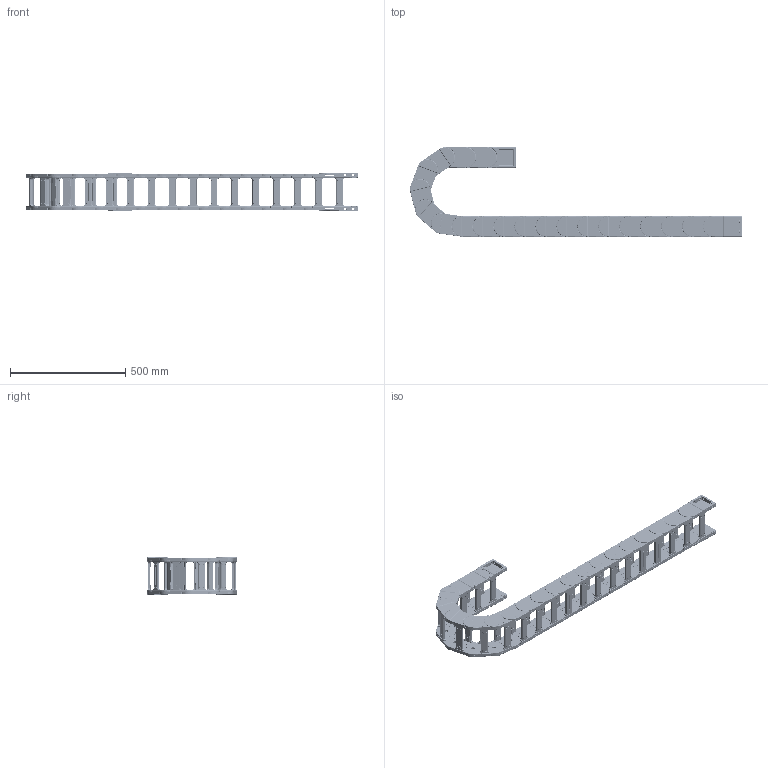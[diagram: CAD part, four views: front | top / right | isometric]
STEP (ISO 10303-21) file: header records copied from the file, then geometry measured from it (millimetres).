
FILE_DESCRIPTION (( 'STEP AP214' ), '1' );
FILE_NAME ('J60Q.1.125S-3D賦凳芞.STEP', '2019-01-10T01:09:02', ( 'Sky123.Org' ), ( 'Sky123.Org' ), 'SwSTEP 2.0', 'SolidWorks 2017', '' );
FILE_SCHEMA (( 'AUTOMOTIVE_DESIGN' ));
Length unit declared in the file: millimetre
Products named in the file (10): J60Q.1-源諉芛-W; J60Q.1.100S-桥式-内接头; 臏簽12X9; J60Q.1-源諉芛-N; J60Q.1.100S-桥式-单节主体; J60-H80-100結え; J60Q.1-翋极-R-2018.3.30; J60Q.1-翋极-L-2018.3.30; J60Q.1.125S-3D賦凳芞; J60Q.1.100S-桥式-外接头
Assembly tree (57 placements, depth 3):
  J60Q.1.125S-3D賦凳芞
    J60Q.1.100S-桥式-单节主体  x19
      J60Q.1-翋极-L-2018.3.30
      J60Q.1-翋极-R-2018.3.30
      J60-H80-100結え
    J60Q.1.100S-桥式-内接头
      J60Q.1-源諉芛-N  x2
      J60-H80-100結え  x2
      臏簽12X9  x12
    J60Q.1.100S-桥式-外接头
      J60Q.1-源諉芛-W  x2
      J60-H80-100結え  x2
      臏簽12X9  x12
Bounding box: 1442.11 x 388.53 x 165 mm (x, y, z)
Volume: 6852998.6 mm3; surface area: 2314022.3 mm2
Topology: 108 solids, 148 shells, 19975 faces, 52506 edges, 33104 vertices
Faces by surface type: plane 9891, cylinder 6288, bspline 1518, torus 1288, sphere 778, cone 212
Entity records: 36164 total; most frequent: CARTESIAN_POINT 8515, ORIENTED_EDGE 4950, DIRECTION 4876, EDGE_CURVE 2475, AXIS2_PLACEMENT_3D 1648, VERTEX_POINT 1583, LINE 1580, VECTOR 1580
